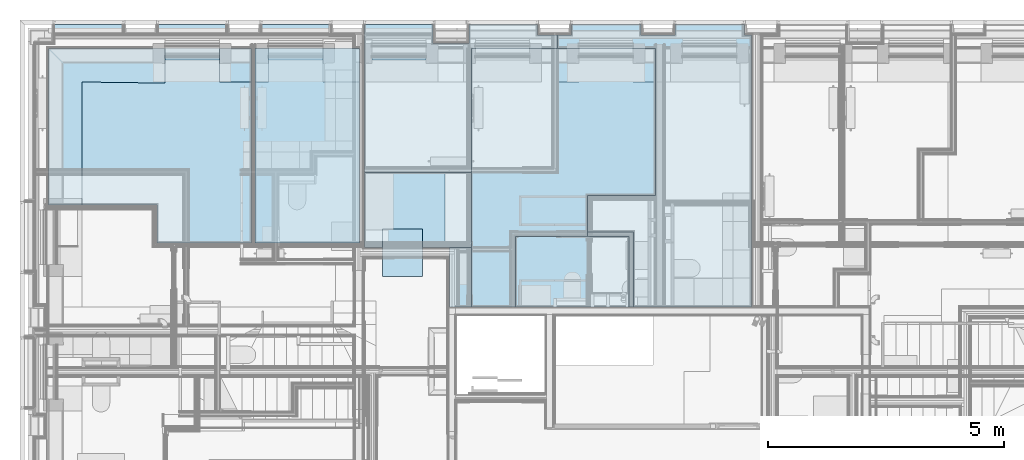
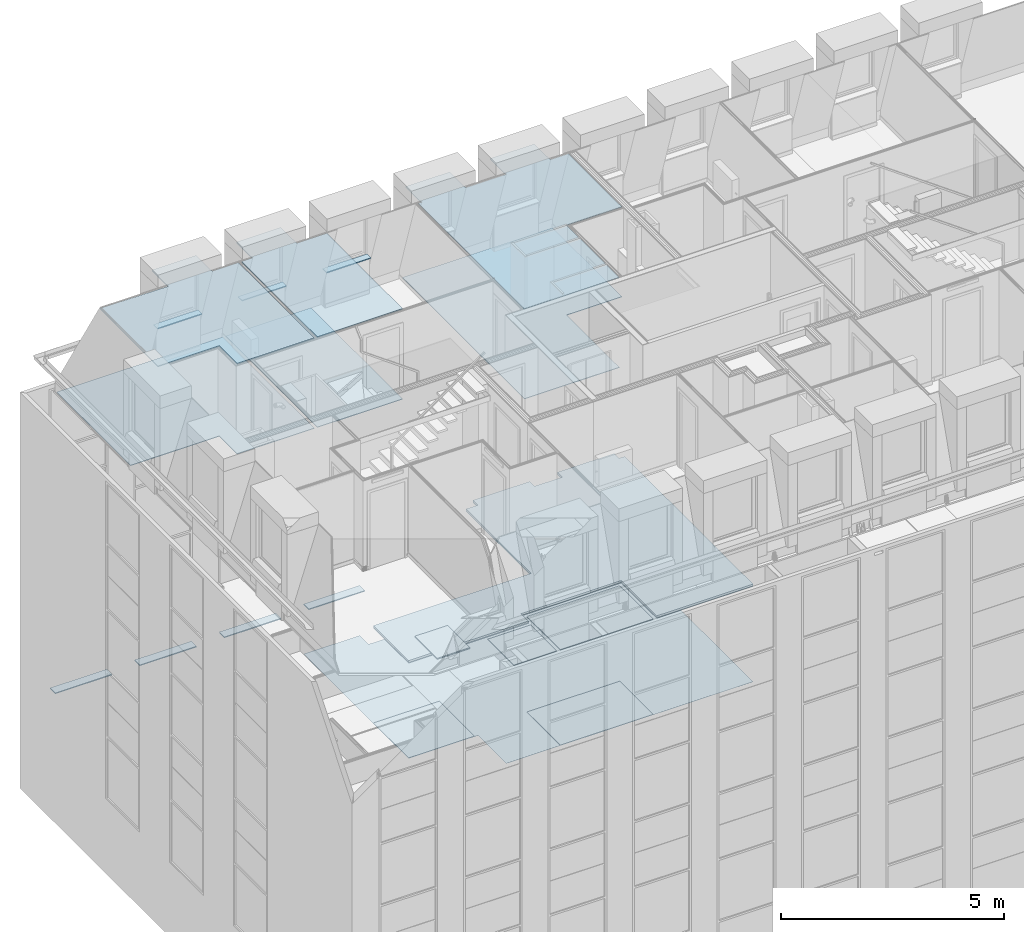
# One storey, part 74 of 169: 27 slabs.
"""IFC2X3 building model written with IfcOpenShell, lengths in metres."""

import ifcopenshell
import ifcopenshell.guid

model = None  # the IFC model being written
_history = None  # IfcOwnerHistory: only IFC2X3 demands one
_inside = {}  # id of a spatial element -> (the spatial element, [elements in it])
_under = {}  # id of a project, library or spatial element -> (it, [spatial elements below it])
_declared = {}  # id of a project -> (the project, [libraries it declares])
_typed = {}  # id of a type object -> (the type object, [elements of that type])
_made_of = {}  # id of a material, layer set ... -> (it, [elements and type objects made of it])


def new_model(schema):
    """Start an empty IFC model of exactly this schema.

    Asked for "IFC4X3", IfcOpenShell would pick the latest addendum, in which some entities
    have other attributes; the version numbers below select the first issue.
    IFC2X3 requires an IfcOwnerHistory on every rooted entity: one is made here for all.
    """
    global model, _history
    if schema == "IFC4X3":
        model = ifcopenshell.file(schema_version=(4, 3, 0, 0))
    else:
        model = ifcopenshell.file(schema=schema)
    _inside.clear()
    _under.clear()
    _declared.clear()
    _typed.clear()
    _made_of.clear()
    _history = None
    if model.schema == "IFC2X3":
        org = make("IfcOrganization", Name="unknown")
        user = make(
            "IfcPersonAndOrganization",
            ThePerson=make("IfcPerson", FamilyName="unknown"),
            TheOrganization=org,
        )
        app = make(
            "IfcApplication",
            ApplicationDeveloper=org,
            Version="unknown",
            ApplicationFullName="unknown",
            ApplicationIdentifier="unknown",
        )
        _history = make(
            "IfcOwnerHistory",
            OwningUser=user,
            OwningApplication=app,
            ChangeAction="ADDED",
            CreationDate=0,
        )
    return model


def make(cls, **values):
    """One entity of the class cls with the attributes given. An attribute that is None is left unset."""
    return model.create_entity(
        cls, **{name: value for name, value in values.items() if value is not None}
    )


def entity(cls, *values):
    """Any entity or typed value of the class cls, its attributes in the order of the schema. None: left unset."""
    e = model.create_entity(cls)
    for i, value in enumerate(values):
        if value is not None:
            e[i] = value
    return e


def rooted(cls, **values):
    """An entity with a GlobalId (a new one), such as an element, a storey or a relation."""
    return make(cls, GlobalId=ifcopenshell.guid.new(), OwnerHistory=_history, **values)


def si_unit(unit_type, name, prefix=None):
    """IfcSIUnit, for example si_unit("LENGTHUNIT", "METRE", prefix="MILLI")."""
    return make("IfcSIUnit", UnitType=unit_type, Prefix=prefix, Name=name)


def converted_unit(unit_type, name, factor, base, dimensions=None, offset=None):
    """IfcConversionBasedUnit, such as the inch: factor (a typed value) times the base unit."""
    return make(
        "IfcConversionBasedUnit"
        if offset is None
        else "IfcConversionBasedUnitWithOffset",
        ConversionOffset=offset,
        Dimensions=None
        if dimensions is None
        else entity("IfcDimensionalExponents", *dimensions),
        UnitType=unit_type,
        Name=name,
        ConversionFactor=make(
            "IfcMeasureWithUnit", ValueComponent=factor, UnitComponent=base
        ),
    )


def derived_unit(unit_type, elements):
    """IfcDerivedUnit: a product of units, each with its exponent."""
    return make(
        "IfcDerivedUnit",
        Elements=[
            make("IfcDerivedUnitElement", Unit=unit, Exponent=power)
            for unit, power in elements
        ],
        UnitType=unit_type,
    )


def money_unit(currency):
    """IfcMonetaryUnit."""
    return make("IfcMonetaryUnit", Currency=currency)


def assignment(units):
    """IfcUnitAssignment: the units of a project."""
    return None if units is None else make("IfcUnitAssignment", Units=units)


def point(xyz):
    """IfcCartesianPoint."""
    return None if xyz is None else make("IfcCartesianPoint", Coordinates=xyz)


def direction(xyz):
    """IfcDirection."""
    return None if xyz is None else make("IfcDirection", DirectionRatios=xyz)


def frame(location, z_axis=None, x_axis=None):
    """IfcAxis2Placement3D, a coordinate frame: its origin and axes. An axis left out is left unset."""
    return make(
        "IfcAxis2Placement3D",
        Location=point(location),
        Axis=direction(z_axis),
        RefDirection=direction(x_axis),
    )


def origin_with_axes():
    """The frame at (0, 0, 0) with the z axis (0, 0, 1) and the x axis (1, 0, 0) written out."""
    return frame((0.0, 0.0, 0.0), z_axis=(0.0, 0.0, 1.0), x_axis=(1.0, 0.0, 0.0))


def place(relative_to, where):
    """IfcLocalPlacement: puts the frame where relative to a parent placement (None: the world)."""
    return make(
        "IfcLocalPlacement", PlacementRelTo=relative_to, RelativePlacement=where
    )


def context(
    kind, dimensions, precision=None, world=None, true_north=None, identifier=None
):
    """IfcGeometricRepresentationContext, for example the 3D "Model" context."""
    return make(
        "IfcGeometricRepresentationContext",
        ContextIdentifier=identifier,
        ContextType=kind,
        CoordinateSpaceDimension=dimensions,
        Precision=precision,
        WorldCoordinateSystem=world,
        TrueNorth=true_north,
    )


def subcontext(parent, identifier, kind, view, scale=None):
    """IfcGeometricRepresentationSubContext, for example "Body" below "Model"."""
    return make(
        "IfcGeometricRepresentationSubContext",
        ContextIdentifier=identifier,
        ContextType=kind,
        ParentContext=parent,
        TargetScale=scale,
        TargetView=view,
    )


def project(units=None, contexts=None):
    """IfcProject with its units and contexts."""
    return rooted(
        "IfcProject",
        Name="project",
        RepresentationContexts=contexts,
        UnitsInContext=assignment(units),
    )


def spatial(cls, under=None, at=None, **own):
    """A site, building, storey or space (cls), placed at a placement, below another one or the project."""
    s = rooted(cls, ObjectPlacement=at, **own)
    if under is not None:
        _under.setdefault(under.id(), (under, []))[1].append(s)
    return s


def faces_of(points, faces, orient=None, outer=None):
    """IfcFace entities. A face is a list of loops; a loop is a list of indices into points, from 0.

    orient and outer hold one flag for each loop. By default every Orientation is true, the
    first loop of a face is its IfcFaceOuterBound and the others are IfcFaceBound.
    """
    made = []
    for i, loops in enumerate(faces):
        bounds = []
        for j, loop in enumerate(loops):
            is_outer = j == 0 if outer is None else outer[i][j]
            bounds.append(
                make(
                    "IfcFaceOuterBound" if is_outer else "IfcFaceBound",
                    Bound=make("IfcPolyLoop", Polygon=[points[k] for k in loop]),
                    Orientation=True if orient is None else orient[i][j],
                )
            )
        made.append(make("IfcFace", Bounds=bounds))
    return made


def faceted_brep(points, faces, orient=None, outer=None, voids=None):
    """IfcFacetedBrep: a solid bounded by flat faces; with voids (closed shells), ...WithVoids."""
    shared = [point(p) for p in points]
    hull = make("IfcClosedShell", CfsFaces=faces_of(shared, faces, orient, outer))
    if voids is None:
        return make("IfcFacetedBrep", Outer=hull)
    return make(
        "IfcFacetedBrepWithVoids",
        Outer=hull,
        Voids=[
            make(cls, CfsFaces=faces_of(shared, fs, o, b)) for cls, fs, o, b in voids
        ],
    )


def shape(context_of_items, identifier, shape_type, items):
    """IfcShapeRepresentation: the items that make up one representation, for example the "Body"."""
    return make(
        "IfcShapeRepresentation",
        ContextOfItems=context_of_items,
        RepresentationIdentifier=identifier,
        RepresentationType=shape_type,
        Items=items,
    )


def material(Name=None, Category=None):
    """IfcMaterial."""
    return make("IfcMaterial", Name=Name, Category=Category)


def made_of(thing, what):
    """Note that an element or type object is made of a material, layer set ...; save() writes the relation."""
    if what is not None:
        _made_of.setdefault(what.id(), (what, []))[1].append(thing)
    return thing


def type_object(cls, material=None, **own):
    """A type object (cls), such as IfcWallType, which elements share."""
    return made_of(rooted(cls, **own), material)


def element(
    cls,
    number,
    at=None,
    inside=None,
    cuts=None,
    type_object=None,
    material=None,
    context=None,
    identifier="Body",
    shape_type=None,
    held_by="IfcProductDefinitionShape",
    body=None,
    shapes=None,
    **own,
):
    """One element of the class cls, such as IfcWall. Its Tag is "e" and its number.

    at: its placement. inside: the storey or other place that contains it. cuts: it is an
    opening in that element (IfcRelVoidsElement). A single representation is given by context,
    identifier, shape_type and body (its items); several are given by shapes. held_by: the class
    of the entity that holds the representations. save() writes the other relations.
    """
    e = rooted(cls, Tag="e%d" % number, ObjectPlacement=at, **own)
    if body is not None:
        shapes = [shape(context, identifier, shape_type, body)]
    if shapes is not None:
        e.Representation = make(held_by, Representations=shapes)
    if inside is not None:
        _inside.setdefault(inside.id(), (inside, []))[1].append(e)
    if cuts is not None:
        rooted(
            "IfcRelVoidsElement", RelatingBuildingElement=cuts, RelatedOpeningElement=e
        )
    if type_object is not None:
        _typed.setdefault(type_object.id(), (type_object, []))[1].append(e)
    return made_of(e, material)


def aggregate(whole, parts):
    """IfcRelAggregates: a whole, such as a stair, and the parts it consists of."""
    return rooted("IfcRelAggregates", RelatingObject=whole, RelatedObjects=parts)


def save(model, path):
    """Write the relations noted so far, then the file.

    IfcRelAggregates (storeys below a building ...), IfcRelContainedInSpatialStructure (elements
    in a storey), IfcRelDefinesByType, IfcRelAssociatesMaterial and IfcRelDeclares: one each for
    every whole, place, type object, material and project.
    """
    for whole, parts in _under.values():
        aggregate(whole, parts)
    for where, things in _inside.values():
        rooted(
            "IfcRelContainedInSpatialStructure",
            RelatedElements=things,
            RelatingStructure=where,
        )
    for kind, things in _typed.values():
        rooted("IfcRelDefinesByType", RelatedObjects=things, RelatingType=kind)
    for what, things in _made_of.values():
        rooted("IfcRelAssociatesMaterial", RelatedObjects=things, RelatingMaterial=what)
    for by, libraries in _declared.values():
        rooted("IfcRelDeclares", RelatingContext=by, RelatedDefinitions=libraries)
    model.write(path)


model = new_model("IFC2X3")

# Units and contexts
model_context = context("Model", 3, precision=1e-05, world=origin_with_axes(), true_north=direction((0.0, 1.0)))
body_context = subcontext(model_context, "Body", "Model", "MODEL_VIEW", scale=1.0)
ifc_project = project(units=[si_unit("LENGTHUNIT", "METRE"), si_unit("AREAUNIT", "SQUARE_METRE"), si_unit("VOLUMEUNIT", "CUBIC_METRE"), si_unit("ABSORBEDDOSEUNIT", "GRAY"), si_unit("AMOUNTOFSUBSTANCEUNIT", "MOLE"), si_unit("DOSEEQUIVALENTUNIT", "SIEVERT"), si_unit("ELECTRICCAPACITANCEUNIT", "FARAD"), si_unit("ELECTRICCHARGEUNIT", "COULOMB"), si_unit("ELECTRICCONDUCTANCEUNIT", "SIEMENS"), si_unit("ELECTRICCURRENTUNIT", "AMPERE"), si_unit("ELECTRICRESISTANCEUNIT", "OHM"), si_unit("ELECTRICVOLTAGEUNIT", "VOLT"), si_unit("ENERGYUNIT", "JOULE"), si_unit("FORCEUNIT", "NEWTON"), si_unit("FREQUENCYUNIT", "HERTZ"), si_unit("ILLUMINANCEUNIT", "LUX"), si_unit("INDUCTANCEUNIT", "HENRY"), si_unit("LUMINOUSFLUXUNIT", "LUMEN"), si_unit("LUMINOUSINTENSITYUNIT", "CANDELA"), si_unit("MAGNETICFLUXDENSITYUNIT", "TESLA"), si_unit("MAGNETICFLUXUNIT", "WEBER"), si_unit("MASSUNIT", "GRAM"), converted_unit("PLANEANGLEUNIT", "degree", entity("IfcReal", 0.0174532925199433), si_unit("PLANEANGLEUNIT", "RADIAN"), dimensions=[0, 0, 0, 0, 0, 0, 0]), si_unit("POWERUNIT", "WATT"), si_unit("PRESSUREUNIT", "PASCAL"), si_unit("RADIOACTIVITYUNIT", "BECQUEREL"), si_unit("SOLIDANGLEUNIT", "STERADIAN"), si_unit("THERMODYNAMICTEMPERATUREUNIT", "KELVIN"), si_unit("TIMEUNIT", "SECOND"), derived_unit("ACCELERATIONUNIT", [(si_unit("LENGTHUNIT", "METRE"), 1), (si_unit("TIMEUNIT", "SECOND"), -2)]), derived_unit("ANGULARVELOCITYUNIT", [(converted_unit("PLANEANGLEUNIT", "degree", entity("IfcReal", 0.0174532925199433), si_unit("PLANEANGLEUNIT", "RADIAN"), dimensions=[0, 0, 0, 0, 0, 0, 0]), 1), (si_unit("TIMEUNIT", "SECOND"), -1)]), derived_unit("CURVATUREUNIT", [(converted_unit("PLANEANGLEUNIT", "degree", entity("IfcReal", 0.0174532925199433), si_unit("PLANEANGLEUNIT", "RADIAN"), dimensions=[0, 0, 0, 0, 0, 0, 0]), 1), (si_unit("LENGTHUNIT", "METRE"), -1)]), derived_unit("DYNAMICVISCOSITYUNIT", [(si_unit("PRESSUREUNIT", "PASCAL"), 1), (si_unit("TIMEUNIT", "SECOND"), 1)]), derived_unit("HEATFLUXDENSITYUNIT", [(si_unit("POWERUNIT", "WATT"), 1), (si_unit("LENGTHUNIT", "METRE"), -2)]), derived_unit("HEATINGVALUEUNIT", [(si_unit("ENERGYUNIT", "JOULE"), 1), (si_unit("MASSUNIT", "GRAM"), -1)]), derived_unit("INTEGERCOUNTRATEUNIT", [(si_unit("TIMEUNIT", "SECOND"), -1)]), derived_unit("IONCONCENTRATIONUNIT", [(si_unit("MASSUNIT", "GRAM"), 1), (si_unit("VOLUMEUNIT", "CUBIC_METRE"), -1)]), derived_unit("ISOTHERMALMOISTURECAPACITYUNIT", [(si_unit("VOLUMEUNIT", "CUBIC_METRE"), 1), (si_unit("MASSUNIT", "GRAM"), -1)]), derived_unit("KINEMATICVISCOSITYUNIT", [(si_unit("AREAUNIT", "SQUARE_METRE"), 1), (si_unit("TIMEUNIT", "SECOND"), -1)]), derived_unit("LINEARFORCEUNIT", [(si_unit("FORCEUNIT", "NEWTON"), 1), (si_unit("LENGTHUNIT", "METRE"), -1)]), derived_unit("LINEARMOMENTUNIT", [(si_unit("FORCEUNIT", "NEWTON"), 1), (si_unit("LENGTHUNIT", "METRE"), -1)]), derived_unit("LINEARSTIFFNESSUNIT", [(si_unit("FORCEUNIT", "NEWTON"), 1), (si_unit("LENGTHUNIT", "METRE"), -1)]), derived_unit("LINEARVELOCITYUNIT", [(si_unit("LENGTHUNIT", "METRE"), 1), (si_unit("TIMEUNIT", "SECOND"), -1)]), derived_unit("LUMINOUSINTENSITYDISTRIBUTIONUNIT", [(si_unit("LUMINOUSINTENSITYUNIT", "CANDELA"), 1), (si_unit("LUMINOUSFLUXUNIT", "LUMEN"), -1)]), derived_unit("MASSDENSITYUNIT", [(si_unit("MASSUNIT", "GRAM"), 1), (si_unit("VOLUMEUNIT", "CUBIC_METRE"), -1)]), derived_unit("MASSFLOWRATEUNIT", [(si_unit("MASSUNIT", "GRAM"), 1), (si_unit("TIMEUNIT", "SECOND"), -1)]), derived_unit("MASSPERLENGTHUNIT", [(si_unit("MASSUNIT", "GRAM"), 1), (si_unit("LENGTHUNIT", "METRE"), -1)]), derived_unit("MODULUSOFELASTICITYUNIT", [(si_unit("FORCEUNIT", "NEWTON"), 1), (si_unit("AREAUNIT", "SQUARE_METRE"), -1)]), derived_unit("MODULUSOFLINEARSUBGRADEREACTIONUNIT", [(si_unit("FORCEUNIT", "NEWTON"), 1), (si_unit("LENGTHUNIT", "METRE"), -2)]), derived_unit("MODULUSOFROTATIONALSUBGRADEREACTIONUNIT", [(si_unit("FORCEUNIT", "NEWTON"), 1), (si_unit("LENGTHUNIT", "METRE"), 1)]), derived_unit("MODULUSOFSUBGRADEREACTIONUNIT", [(si_unit("FORCEUNIT", "NEWTON"), 1), (si_unit("VOLUMEUNIT", "CUBIC_METRE"), -1)]), derived_unit("MOISTUREDIFFUSIVITYUNIT", [(si_unit("VOLUMEUNIT", "CUBIC_METRE"), 1), (si_unit("TIMEUNIT", "SECOND"), -1)]), derived_unit("MOLECULARWEIGHTUNIT", [(si_unit("MASSUNIT", "GRAM"), 1), (si_unit("AMOUNTOFSUBSTANCEUNIT", "MOLE"), -1)]), derived_unit("PLANARFORCEUNIT", [(si_unit("FORCEUNIT", "NEWTON"), 1), (si_unit("LENGTHUNIT", "METRE"), -2)]), derived_unit("ROTATIONALFREQUENCYUNIT", [(si_unit("TIMEUNIT", "SECOND"), -1)]), derived_unit("ROTATIONALMASSUNIT", [(si_unit("MASSUNIT", "GRAM"), 1), (si_unit("LENGTHUNIT", "METRE"), 2)]), derived_unit("ROTATIONALSTIFFNESSUNIT", [(si_unit("FORCEUNIT", "NEWTON"), 1), (si_unit("LENGTHUNIT", "METRE"), 1), (converted_unit("PLANEANGLEUNIT", "degree", entity("IfcReal", 0.0174532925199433), si_unit("PLANEANGLEUNIT", "RADIAN"), dimensions=[0, 0, 0, 0, 0, 0, 0]), -1)]), derived_unit("SECTIONAREAINTEGRALUNIT", [(si_unit("LENGTHUNIT", "METRE"), 5)]), derived_unit("SECTIONMODULUSUNIT", [(si_unit("LENGTHUNIT", "METRE"), 3)]), derived_unit("SHEARMODULUSUNIT", [(si_unit("FORCEUNIT", "NEWTON"), 1), (si_unit("AREAUNIT", "SQUARE_METRE"), -1)]), derived_unit("SOUNDPOWERUNIT", [(si_unit("ENERGYUNIT", "JOULE"), 1), (si_unit("TIMEUNIT", "SECOND"), -1)]), derived_unit("SPECIFICHEATCAPACITYUNIT", [(si_unit("FORCEUNIT", "NEWTON"), 1), (si_unit("MASSUNIT", "GRAM"), -1), (si_unit("THERMODYNAMICTEMPERATUREUNIT", "KELVIN"), -1)]), derived_unit("TEMPERATUREGRADIENTUNIT", [(si_unit("THERMODYNAMICTEMPERATUREUNIT", "KELVIN"), 1), (si_unit("LENGTHUNIT", "METRE"), -1)]), derived_unit("THERMALADMITTANCEUNIT", [(si_unit("POWERUNIT", "WATT"), 1), (si_unit("AREAUNIT", "SQUARE_METRE"), -1), (si_unit("THERMODYNAMICTEMPERATUREUNIT", "KELVIN"), -1)]), derived_unit("THERMALCONDUCTANCEUNIT", [(si_unit("POWERUNIT", "WATT"), 1), (si_unit("LENGTHUNIT", "METRE"), -1), (si_unit("THERMODYNAMICTEMPERATUREUNIT", "KELVIN"), -1)]), derived_unit("THERMALEXPANSIONCOEFFICIENTUNIT", [(si_unit("THERMODYNAMICTEMPERATUREUNIT", "KELVIN"), -1)]), derived_unit("THERMALRESISTANCEUNIT", [(si_unit("AREAUNIT", "SQUARE_METRE"), 1), (si_unit("POWERUNIT", "WATT"), -1)]), derived_unit("THERMALTRANSMITTANCEUNIT", [(si_unit("POWERUNIT", "WATT"), 1), (si_unit("AREAUNIT", "SQUARE_METRE"), -1), (si_unit("THERMODYNAMICTEMPERATUREUNIT", "KELVIN"), -1)]), derived_unit("TORQUEUNIT", [(si_unit("FORCEUNIT", "NEWTON"), 1), (si_unit("LENGTHUNIT", "METRE"), 1)]), derived_unit("VAPORPERMEABILITYUNIT", [(si_unit("MASSUNIT", "GRAM"), 1), (si_unit("TIMEUNIT", "SECOND"), -1)]), derived_unit("VOLUMETRICFLOWRATEUNIT", [(si_unit("VOLUMEUNIT", "CUBIC_METRE"), 1), (si_unit("TIMEUNIT", "SECOND"), -1)]), derived_unit("WARPINGCONSTANTUNIT", [(si_unit("LENGTHUNIT", "METRE"), 6)]), derived_unit("WARPINGMOMENTUNIT", [(si_unit("FORCEUNIT", "NEWTON"), 1), (si_unit("LENGTHUNIT", "METRE"), 2)]), money_unit("GBP")], contexts=[model_context])

# Site, building, storey
site_placement = place(None, origin_with_axes())
site = spatial("IfcSite", under=ifc_project, at=site_placement, Name="Site", CompositionType="ELEMENT")
building_placement = place(site_placement, origin_with_axes())
building = spatial("IfcBuilding", under=site, at=building_placement, Name="Building01", CompositionType="ELEMENT")
storey_placement = place(building_placement, frame((0.0, 0.0, 5.15), z_axis=(0.0, 0.0, 1.0), x_axis=(1.0, 0.0, 0.0)))
storey = spatial("IfcBuildingStorey", under=building, at=storey_placement, Name="1F", CompositionType="ELEMENT", Elevation=5.15)

# Slabs
ifc_material_1 = material(Name="A_BSUK_ExpandedPolystyreneBoards")
slab_type_1 = type_object("IfcSlabType", Name="A-FloorsSlabs A_BSUK_Slabs", PredefinedType="FLOOR")
placement = place(storey_placement, frame((0.0, 0.0, -5.15), z_axis=(0.0, 0.0, 1.0), x_axis=(1.0, 0.0, 0.0)))
element("IfcSlab", 1, at=placement, inside=storey, type_object=slab_type_1, material=ifc_material_1, Name="A-FloorsSlabs A_BSUK_Slabs", ObjectType="CompoundSlabLeaf", context=body_context, shape_type="Brep", body=[
    faceted_brep([(7.289669, 10.087704, 5.15), (7.289669, 10.087704, 5.153), (7.289669, 14.582, 5.153), (7.289669, 14.582, 5.15), (9.09, 10.087704, 5.15), (9.09, 10.087704, 5.153), (9.09, 9.200704, 5.15), (9.09, 9.200704, 5.153), (9.09, 8.82, 5.15), (9.09, 8.82, 5.153), (12.893585, 8.82, 5.15), (12.893585, 8.82, 5.153), (15.483132, 8.82, 5.15), (15.483132, 8.82, 5.153), (15.483132, 14.582, 5.15), (15.483132, 14.582, 5.153), (15.335, 14.582, 5.15), (15.335, 14.582, 5.153), (15.335, 14.8, 5.15), (15.335, 14.8, 5.153), (13.865, 14.8, 5.15), (13.865, 14.8, 5.153), (13.865, 14.582, 5.15), (13.865, 14.582, 5.153), (13.145, 14.582, 5.15), (13.145, 14.582, 5.153), (13.145, 14.8, 5.15), (13.145, 14.8, 5.153), (11.675, 14.8, 5.15), (11.675, 14.8, 5.153), (11.675, 14.582, 5.15), (11.675, 14.582, 5.153), (10.955, 14.582, 5.15), (10.955, 14.582, 5.153), (10.955, 14.8, 5.15), (10.955, 14.8, 5.153), (9.508, 14.8, 5.15), (9.508, 14.8, 5.153), (9.508, 14.402, 5.15), (9.508, 14.402, 5.153), (8.742, 14.402, 5.15), (8.742, 14.402, 5.153), (8.742, 14.8, 5.15), (8.742, 14.8, 5.153), (7.295, 14.8, 5.15), (7.295, 14.8, 5.153), (7.295, 14.582, 5.15), (7.295, 14.582, 5.153)], [[[0, 1, 2, 3]], [[4, 5, 1, 0]], [[6, 7, 5, 4]], [[8, 9, 7, 6]], [[10, 11, 9, 8]], [[12, 13, 11, 10]], [[14, 15, 13, 12]], [[16, 17, 15, 14]], [[18, 19, 17, 16]], [[20, 21, 19, 18]], [[22, 23, 21, 20]], [[24, 25, 23, 22]], [[26, 27, 25, 24]], [[28, 29, 27, 26]], [[30, 31, 29, 28]], [[32, 33, 31, 30]], [[34, 35, 33, 32]], [[36, 37, 35, 34]], [[38, 39, 37, 36]], [[40, 41, 39, 38]], [[42, 43, 41, 40]], [[44, 45, 43, 42]], [[46, 47, 45, 44]], [[3, 2, 47, 46]], [[1, 5, 7, 9, 11, 13, 15, 17, 19, 21, 23, 25, 27, 29, 31, 33, 35, 37, 39, 41, 43, 45, 47, 2]], [[3, 46, 44, 42, 40, 38, 36, 34, 32, 30, 28, 26, 24, 22, 20, 18, 16, 14, 12, 10, 8, 6, 4, 0]]]),
])
ifc_material_2 = material(Name="A_BSUK_Parquet_Floor")
element("IfcSlab", 2, at=placement, inside=storey, type_object=slab_type_1, material=ifc_material_2, Name="A-FloorsSlabs A_BSUK_Slabs", ObjectType="CompoundSlabLeaf", context=body_context, shape_type="Brep", body=[
    faceted_brep([(7.289669, 10.087704, 5.153), (7.289669, 10.087704, 5.165), (7.289669, 11.668124, 5.165), (7.289669, 11.668124, 5.153), (8.995, 10.087704, 5.153), (8.995, 10.087704, 5.165), (8.995, 11.668124, 5.153), (8.995, 11.668124, 5.165)], [[[0, 1, 2, 3]], [[4, 5, 1, 0]], [[6, 7, 5, 4]], [[3, 2, 7, 6]], [[1, 5, 7, 2]], [[3, 6, 4, 0]]]),
])
ifc_material_3 = material(Name="A_BSUK_Ceramic_FloorTiles")
element("IfcSlab", 3, at=placement, inside=storey, type_object=slab_type_1, material=ifc_material_3, Name="A-FloorsSlabs A_BSUK_Slabs", ObjectType="CompoundSlabLeaf", context=body_context, shape_type="Brep", body=[
    faceted_brep([(10.488871, 10.32, 5.153), (10.488871, 10.32, 5.165), (12.893585, 10.32, 5.165), (12.893585, 10.32, 5.153), (10.488871, 8.82, 5.153), (10.488871, 8.82, 5.165), (12.893585, 8.82, 5.153), (12.893585, 8.82, 5.165)], [[[0, 1, 2, 3]], [[4, 5, 1, 0]], [[6, 7, 5, 4]], [[3, 2, 7, 6]], [[1, 5, 7, 2]], [[3, 6, 4, 0]]]),
])
ifc_material_4 = material(Name="A_BSUK_CeilingSoffitFinishes_Suspended")
element("IfcSlab", 4, at=placement, inside=storey, type_object=slab_type_1, material=ifc_material_4, Name="A-FloorsSlabs A_BSUK_Slabs", ObjectType="CompoundSlabLeaf", context=body_context, shape_type="Brep", body=[
    faceted_brep([(12.988585, 10.415, 7.765), (12.988585, 10.415, 7.78), (10.393871, 10.415, 7.78), (10.393871, 10.415, 7.765), (12.988585, 8.82, 7.765), (12.988585, 8.82, 7.78), (15.483132, 8.82, 7.765), (15.483132, 8.82, 7.78), (15.483132, 14.582, 7.765), (15.483132, 14.582, 7.78), (15.335, 14.582, 7.765), (15.335, 14.582, 7.78), (15.335, 14.8, 7.765), (15.335, 14.8, 7.78), (13.865, 14.8, 7.765), (13.865, 14.8, 7.78), (13.865, 14.582, 7.765), (13.865, 14.582, 7.78), (13.145, 14.582, 7.765), (13.145, 14.582, 7.78), (13.145, 14.8, 7.765), (13.145, 14.8, 7.78), (11.675, 14.8, 7.765), (11.675, 14.8, 7.78), (11.675, 14.582, 7.765), (11.675, 14.582, 7.78), (11.375, 14.582, 7.765), (11.375, 14.582, 7.78), (11.375, 11.668124, 7.765), (11.375, 11.668124, 7.78), (10.653, 11.668124, 7.765), (10.653, 11.668124, 7.78), (9.642, 11.668124, 7.765), (9.642, 11.668124, 7.78), (7.289669, 11.668124, 7.765), (7.289669, 11.668124, 7.78), (7.289669, 10.087704, 7.765), (7.289669, 10.087704, 7.78), (10.393871, 10.087704, 7.765), (10.393871, 10.087704, 7.78)], [[[0, 1, 2, 3]], [[4, 5, 1, 0]], [[6, 7, 5, 4]], [[8, 9, 7, 6]], [[10, 11, 9, 8]], [[12, 13, 11, 10]], [[14, 15, 13, 12]], [[16, 17, 15, 14]], [[18, 19, 17, 16]], [[20, 21, 19, 18]], [[22, 23, 21, 20]], [[24, 25, 23, 22]], [[26, 27, 25, 24]], [[28, 29, 27, 26]], [[30, 31, 29, 28]], [[32, 33, 31, 30]], [[34, 35, 33, 32]], [[36, 37, 35, 34]], [[38, 39, 37, 36]], [[3, 2, 39, 38]], [[1, 5, 7, 9, 11, 13, 15, 17, 19, 21, 23, 25, 27, 29, 31, 33, 35, 37, 39, 2]], [[3, 38, 36, 34, 32, 30, 28, 26, 24, 22, 20, 18, 16, 14, 12, 10, 8, 6, 4, 0]]]),
])
element("IfcSlab", 5, at=placement, inside=storey, type_object=slab_type_1, material=ifc_material_4, Name="A-FloorsSlabs A_BSUK_Slabs", ObjectType="CompoundSlabLeaf", context=body_context, shape_type="Brep", body=[
    faceted_brep([(10.488871, 10.32, 7.765), (10.488871, 10.32, 7.78), (12.893585, 10.32, 7.78), (12.893585, 10.32, 7.765), (10.488871, 8.82, 7.765), (10.488871, 8.82, 7.78), (12.893585, 8.82, 7.765), (12.893585, 8.82, 7.78)], [[[0, 1, 2, 3]], [[4, 5, 1, 0]], [[6, 7, 5, 4]], [[3, 2, 7, 6]], [[1, 5, 7, 2]], [[3, 6, 4, 0]]]),
])
element("IfcSlab", 6, at=placement, inside=storey, type_object=slab_type_1, material=ifc_material_4, Name="A-FloorsSlabs A_BSUK_Slabs", ObjectType="CompoundSlabLeaf", context=body_context, shape_type="Brep", body=[
    faceted_brep([(9.285, 8.82, 7.765), (9.285, 8.82, 7.78), (9.285, 9.992662, 7.78), (9.285, 9.992662, 7.765), (10.393585, 8.82, 7.765), (10.393585, 8.82, 7.78), (10.393585, 9.992662, 7.765), (10.393585, 9.992662, 7.78)], [[[0, 1, 2, 3]], [[4, 5, 1, 0]], [[6, 7, 5, 4]], [[3, 2, 7, 6]], [[1, 5, 7, 2]], [[3, 6, 4, 0]]]),
])
ifc_material_5 = material(Name="A_BSUK_Timber_Miscellaneous")
element("IfcSlab", 7, at=placement, inside=storey, type_object=slab_type_1, material=ifc_material_5, Name="A-FloorsSlabs A_BSUK_Slabs", ObjectType="CompoundSlabLeaf", context=body_context, shape_type="Brep", body=[
    faceted_brep([(0.725, 14.567, 6.5), (0.725, 14.567, 6.525), (0.725, 14.800002, 6.525), (0.725, 14.800002, 6.5), (2.195, 14.567, 6.5), (2.195, 14.567, 6.525), (2.195, 14.8, 6.5), (2.195, 14.8, 6.525)], [[[0, 1, 2, 3]], [[4, 5, 1, 0]], [[6, 7, 5, 4]], [[3, 2, 7, 6]], [[1, 5, 7, 2]], [[3, 6, 4, 0]]]),
])
element("IfcSlab", 8, at=placement, inside=storey, type_object=slab_type_1, material=ifc_material_5, Name="A-FloorsSlabs A_BSUK_Slabs", ObjectType="CompoundSlabLeaf", context=body_context, shape_type="Brep", body=[
    faceted_brep([(2.915, 14.567, 6.5), (2.915, 14.567, 6.525), (2.915, 14.800002, 6.525), (2.915, 14.800002, 6.5), (4.385, 14.567, 6.5), (4.385, 14.567, 6.525), (4.385, 14.8, 6.5), (4.385, 14.8, 6.525)], [[[0, 1, 2, 3]], [[4, 5, 1, 0]], [[6, 7, 5, 4]], [[3, 2, 7, 6]], [[1, 5, 7, 2]], [[3, 6, 4, 0]]]),
])
element("IfcSlab", 9, at=placement, inside=storey, type_object=slab_type_1, material=ifc_material_5, Name="A-FloorsSlabs A_BSUK_Slabs", ObjectType="CompoundSlabLeaf", context=body_context, shape_type="Brep", body=[
    faceted_brep([(5.105, 14.567, 6.5), (5.105, 14.567, 6.525), (5.105, 14.800002, 6.525), (5.105, 14.800002, 6.5), (6.575, 14.567, 6.5), (6.575, 14.567, 6.525), (6.575, 14.8, 6.5), (6.575, 14.8, 6.525)], [[[0, 1, 2, 3]], [[4, 5, 1, 0]], [[6, 7, 5, 4]], [[3, 2, 7, 6]], [[1, 5, 7, 2]], [[3, 6, 4, 0]]]),
])
element("IfcSlab", 10, at=placement, inside=storey, type_object=slab_type_1, material=ifc_material_5, Name="A-FloorsSlabs A_BSUK_Slabs", ObjectType="CompoundSlabLeaf", context=body_context, shape_type="Brep", body=[
    faceted_brep([(7.289669, 14.567, 6.5), (7.289669, 14.567, 6.525), (7.289669, 14.800002, 6.525), (7.289669, 14.800002, 6.5), (8.742124, 14.567, 6.5), (8.742124, 14.567, 6.525), (8.742124, 14.8, 6.5), (8.742124, 14.8, 6.525)], [[[0, 1, 2, 3]], [[4, 5, 1, 0]], [[6, 7, 5, 4]], [[3, 2, 7, 6]], [[1, 5, 7, 2]], [[3, 6, 4, 0]]]),
])
element("IfcSlab", 11, at=placement, inside=storey, type_object=slab_type_1, material=ifc_material_4, Name="A-FloorsSlabs A_BSUK_Slabs", ObjectType="CompoundSlabLeaf", context=body_context, shape_type="Brep", body=[
    faceted_brep([(7.677169, 9.475204, 8.115), (7.677169, 9.475204, 8.13), (7.677169, 10.475204, 8.13), (7.677169, 10.475204, 8.115), (8.525, 9.475204, 8.115), (8.525, 9.475204, 8.13), (8.525, 10.475204, 8.115), (8.525, 10.475204, 8.13)], [[[0, 1, 2, 3]], [[4, 5, 1, 0]], [[6, 7, 5, 4]], [[3, 2, 7, 6]], [[1, 5, 7, 2]], [[3, 6, 4, 0]]]),
])
element("IfcSlab", 12, at=placement, inside=storey, type_object=slab_type_1, material=ifc_material_4, Name="A-FloorsSlabs A_BSUK_Slabs", ObjectType="CompoundSlabLeaf", context=body_context, shape_type="Brep", body=[
    faceted_brep([(7.677169, 9.475204, 8.1), (7.677169, 9.475204, 8.115), (7.677169, 10.475204, 8.115), (7.677169, 10.475204, 8.1), (8.525, 9.475204, 8.1), (8.525, 9.475204, 8.115), (8.525, 10.475204, 8.1), (8.525, 10.475204, 8.115)], [[[0, 1, 2, 3]], [[4, 5, 1, 0]], [[6, 7, 5, 4]], [[3, 2, 7, 6]], [[1, 5, 7, 2]], [[3, 6, 4, 0]]]),
])
element("IfcSlab", 13, at=placement, inside=storey, type_object=slab_type_1, material=ifc_material_4, Name="A-FloorsSlabs A_BSUK_Slabs", ObjectType="CompoundSlabLeaf", context=body_context, shape_type="Brep", body=[
    faceted_brep([(1.312402, 10.979915, 17.423), (1.312402, 10.979915, 17.438), (1.312402, 13.587598, 17.438), (1.312402, 13.587598, 17.423), (2.9, 10.979915, 17.423), (2.9, 10.979915, 17.438), (2.9, 10.179939, 17.423), (2.9, 10.179939, 17.438), (4.900024, 10.179939, 17.423), (4.900024, 10.179939, 17.438), (4.900024, 13.587598, 17.423), (4.900024, 13.587598, 17.438), (4.219976, 13.587598, 17.423), (4.219976, 13.587598, 17.438), (4.219976, 14.300061, 17.423), (4.219976, 14.300061, 17.438), (3.070024, 14.300061, 17.423), (3.070024, 14.300061, 17.438), (3.070024, 13.563821, 17.423), (3.070024, 13.563821, 17.438)], [[[0, 1, 2, 3]], [[4, 5, 1, 0]], [[6, 7, 5, 4]], [[8, 9, 7, 6]], [[10, 11, 9, 8]], [[12, 13, 11, 10]], [[14, 15, 13, 12]], [[16, 17, 15, 14]], [[18, 19, 17, 16]], [[3, 2, 19, 18]], [[1, 5, 7, 9, 11, 13, 15, 17, 19, 2]], [[3, 18, 16, 14, 12, 10, 8, 6, 4, 0]]]),
])
element("IfcSlab", 14, at=placement, inside=storey, type_object=slab_type_1, material=ifc_material_4, Name="A-FloorsSlabs A_BSUK_Slabs", ObjectType="CompoundSlabLeaf", context=body_context, shape_type="Brep", body=[
    faceted_brep([(4.980024, 10.179939, 17.423), (4.980024, 10.179939, 17.438), (4.980024, 13.587598, 17.438), (4.980024, 13.587598, 17.423), (7.190024, 10.179939, 17.423), (7.190024, 10.179939, 17.438), (7.190024, 13.587598, 17.423), (7.190024, 13.587598, 17.438), (6.410024, 13.587598, 17.423), (6.410024, 13.587598, 17.438), (6.410024, 14.300061, 17.423), (6.410024, 14.300061, 17.438), (5.260024, 14.300061, 17.423), (5.260024, 14.300061, 17.438), (5.260024, 13.587598, 17.423), (5.260024, 13.587598, 17.438)], [[[0, 1, 2, 3]], [[4, 5, 1, 0]], [[6, 7, 5, 4]], [[8, 9, 7, 6]], [[10, 11, 9, 8]], [[12, 13, 11, 10]], [[14, 15, 13, 12]], [[3, 2, 15, 14]], [[1, 5, 7, 9, 11, 13, 15, 2]], [[3, 14, 12, 10, 8, 6, 4, 0]]]),
])
element("IfcSlab", 15, at=placement, inside=storey, type_object=slab_type_1, material=ifc_material_4, Name="A-FloorsSlabs A_BSUK_Slabs", ObjectType="CompoundSlabLeaf", context=body_context, shape_type="Brep", body=[
    faceted_brep([(12.017381, 8.82, 17.423), (12.017381, 8.82, 17.438), (9.560024, 8.82, 17.438), (9.560024, 8.82, 17.423), (12.017381, 11.183849, 17.423), (12.017381, 11.183849, 17.438), (13.45, 11.183849, 17.423), (13.45, 11.183849, 17.438), (13.45, 13.587598, 17.423), (13.45, 13.587598, 17.438), (12.979976, 13.587598, 17.423), (12.979976, 13.587598, 17.438), (12.979976, 14.300061, 17.423), (12.979976, 14.300061, 17.438), (11.830024, 14.300061, 17.423), (11.830024, 14.300061, 17.438), (11.830024, 13.587598, 17.423), (11.830024, 13.587598, 17.438), (10.789976, 13.587598, 17.423), (10.789976, 13.587598, 17.438), (10.789976, 14.300061, 17.423), (10.789976, 14.300061, 17.438), (9.640024, 14.300061, 17.423), (9.640024, 14.300061, 17.438), (9.640024, 13.587598, 17.423), (9.640024, 13.587598, 17.438), (9.560024, 13.587598, 17.423), (9.560024, 13.587598, 17.438)], [[[0, 1, 2, 3]], [[4, 5, 1, 0]], [[6, 7, 5, 4]], [[8, 9, 7, 6]], [[10, 11, 9, 8]], [[12, 13, 11, 10]], [[14, 15, 13, 12]], [[16, 17, 15, 14]], [[18, 19, 17, 16]], [[20, 21, 19, 18]], [[22, 23, 21, 20]], [[24, 25, 23, 22]], [[26, 27, 25, 24]], [[3, 2, 27, 26]], [[1, 5, 7, 9, 11, 13, 15, 17, 19, 21, 23, 25, 27, 2]], [[3, 26, 24, 22, 20, 18, 16, 14, 12, 10, 8, 6, 4, 0]]]),
])
element("IfcSlab", 16, at=placement, inside=storey, type_object=slab_type_1, material=ifc_material_1, Name="A-FloorsSlabs A_BSUK_Slabs", ObjectType="CompoundSlabLeaf", context=body_context, shape_type="Brep", body=[
    faceted_brep([(0.6038, 10.979915, 14.965), (0.6038, 10.979915, 14.968), (0.6038, 14.2962, 14.968), (0.6038, 14.2962, 14.965), (2.9, 10.979915, 14.965), (2.9, 10.979915, 14.968), (2.9, 10.179939, 14.965), (2.9, 10.179939, 14.968), (4.900024, 10.179939, 14.965), (4.900024, 10.179939, 14.968), (4.900024, 14.2962, 14.965), (4.900024, 14.2962, 14.968), (4.219976, 14.2962, 14.965), (4.219976, 14.2962, 14.968), (3.070024, 14.2962, 14.965), (3.070024, 14.2962, 14.968)], [[[0, 1, 2, 3]], [[4, 5, 1, 0]], [[6, 7, 5, 4]], [[8, 9, 7, 6]], [[10, 11, 9, 8]], [[12, 13, 11, 10]], [[14, 15, 13, 12]], [[3, 2, 15, 14]], [[1, 5, 7, 9, 11, 13, 15, 2]], [[3, 14, 12, 10, 8, 6, 4, 0]]]),
])
element("IfcSlab", 17, at=placement, inside=storey, type_object=slab_type_1, material=ifc_material_1, Name="A-FloorsSlabs A_BSUK_Slabs", ObjectType="CompoundSlabLeaf", context=body_context, shape_type="Brep", body=[
    faceted_brep([(4.980024, 10.179939, 14.965), (4.980024, 10.179939, 14.968), (4.980024, 14.2962, 14.968), (4.980024, 14.2962, 14.965), (7.190024, 10.179939, 14.965), (7.190024, 10.179939, 14.968), (7.190024, 14.2962, 14.965), (7.190024, 14.2962, 14.968), (6.410024, 14.2962, 14.965), (6.410024, 14.2962, 14.968), (5.260024, 14.2962, 14.965), (5.260024, 14.2962, 14.968)], [[[0, 1, 2, 3]], [[4, 5, 1, 0]], [[6, 7, 5, 4]], [[8, 9, 7, 6]], [[10, 11, 9, 8]], [[3, 2, 11, 10]], [[1, 5, 7, 9, 11, 2]], [[3, 10, 8, 6, 4, 0]]]),
])
element("IfcSlab", 18, at=placement, inside=storey, type_object=slab_type_1, material=ifc_material_1, Name="A-FloorsSlabs A_BSUK_Slabs", ObjectType="CompoundSlabLeaf", context=body_context, shape_type="Brep", body=[
    faceted_brep([(12.017381, 8.82, 14.965), (12.017381, 8.82, 14.968), (9.560024, 8.82, 14.968), (9.560024, 8.82, 14.965), (12.017381, 11.183849, 14.965), (12.017381, 11.183849, 14.968), (13.45, 11.183849, 14.965), (13.45, 11.183849, 14.968), (13.45, 14.2962, 14.965), (13.45, 14.2962, 14.968), (12.979976, 14.2962, 14.965), (12.979976, 14.2962, 14.968), (11.830024, 14.2962, 14.965), (11.830024, 14.2962, 14.968), (10.789976, 14.2962, 14.965), (10.789976, 14.2962, 14.968), (9.640024, 14.2962, 14.965), (9.640024, 14.2962, 14.968), (9.560024, 14.2962, 14.965), (9.560024, 14.2962, 14.968)], [[[0, 1, 2, 3]], [[4, 5, 1, 0]], [[6, 7, 5, 4]], [[8, 9, 7, 6]], [[10, 11, 9, 8]], [[12, 13, 11, 10]], [[14, 15, 13, 12]], [[16, 17, 15, 14]], [[18, 19, 17, 16]], [[3, 2, 19, 18]], [[1, 5, 7, 9, 11, 13, 15, 17, 19, 2]], [[3, 18, 16, 14, 12, 10, 8, 6, 4, 0]]]),
])
element("IfcSlab", 19, at=placement, inside=storey, type_object=slab_type_1, material=ifc_material_5, Name="A-FloorsSlabs A_BSUK_Slabs", ObjectType="CompoundSlabLeaf", context=body_context, shape_type="Brep", body=[
    faceted_brep([(8.600024, 14.224661, 15.98), (8.600024, 14.224661, 16.005), (8.600024, 14.050061, 16.005), (8.600024, 14.050061, 15.98), (7.450024, 14.224661, 15.98), (7.450024, 14.224661, 16.005), (7.450024, 14.050062, 15.98), (7.450024, 14.050062, 16.005)], [[[0, 1, 2, 3]], [[4, 5, 1, 0]], [[6, 7, 5, 4]], [[3, 2, 7, 6]], [[1, 5, 7, 2]], [[3, 6, 4, 0]]]),
])
element("IfcSlab", 20, at=placement, inside=storey, type_object=slab_type_1, material=ifc_material_5, Name="A-FloorsSlabs A_BSUK_Slabs", ObjectType="CompoundSlabLeaf", context=body_context, shape_type="Brep", body=[
    faceted_brep([(6.410024, 14.224661, 15.98), (6.410024, 14.224661, 16.005), (6.410024, 14.050061, 16.005), (6.410024, 14.050061, 15.98), (5.260024, 14.224661, 15.98), (5.260024, 14.224661, 16.005), (5.260024, 14.050062, 15.98), (5.260024, 14.050062, 16.005)], [[[0, 1, 2, 3]], [[4, 5, 1, 0]], [[6, 7, 5, 4]], [[3, 2, 7, 6]], [[1, 5, 7, 2]], [[3, 6, 4, 0]]]),
])
element("IfcSlab", 21, at=placement, inside=storey, type_object=slab_type_1, material=ifc_material_5, Name="A-FloorsSlabs A_BSUK_Slabs", ObjectType="CompoundSlabLeaf", context=body_context, shape_type="Brep", body=[
    faceted_brep([(4.220024, 14.224661, 15.98), (4.220024, 14.224661, 16.005), (4.220024, 14.050061, 16.005), (4.220024, 14.050061, 15.98), (3.070024, 14.224661, 15.98), (3.070024, 14.224661, 16.005), (3.070024, 14.050062, 15.98), (3.070024, 14.050062, 16.005)], [[[0, 1, 2, 3]], [[4, 5, 1, 0]], [[6, 7, 5, 4]], [[3, 2, 7, 6]], [[1, 5, 7, 2]], [[3, 6, 4, 0]]]),
])
element("IfcSlab", 22, at=placement, inside=storey, type_object=slab_type_1, material=ifc_material_4, Name="A-FloorsSlabs A_BSUK_Slabs", ObjectType="CompoundSlabLeaf", context=body_context, shape_type="Brep", body=[
    faceted_brep([(1.312402, 10.979915, 17.438), (1.312402, 10.979915, 17.453), (1.312402, 13.587598, 17.453), (1.312402, 13.587598, 17.438), (2.9, 10.979915, 17.438), (2.9, 10.979915, 17.453), (2.9, 10.179939, 17.438), (2.9, 10.179939, 17.453), (4.900024, 10.179939, 17.438), (4.900024, 10.179939, 17.453), (4.900024, 13.587598, 17.438), (4.900024, 13.587598, 17.453), (4.219976, 13.587598, 17.438), (4.219976, 13.587598, 17.453), (4.219976, 14.300061, 17.438), (4.219976, 14.300061, 17.453), (3.070024, 14.300061, 17.438), (3.070024, 14.300061, 17.453), (3.070024, 13.563821, 17.438), (3.070024, 13.563821, 17.453)], [[[0, 1, 2, 3]], [[4, 5, 1, 0]], [[6, 7, 5, 4]], [[8, 9, 7, 6]], [[10, 11, 9, 8]], [[12, 13, 11, 10]], [[14, 15, 13, 12]], [[16, 17, 15, 14]], [[18, 19, 17, 16]], [[3, 2, 19, 18]], [[1, 5, 7, 9, 11, 13, 15, 17, 19, 2]], [[3, 18, 16, 14, 12, 10, 8, 6, 4, 0]]]),
])
element("IfcSlab", 23, at=placement, inside=storey, type_object=slab_type_1, material=ifc_material_4, Name="A-FloorsSlabs A_BSUK_Slabs", ObjectType="CompoundSlabLeaf", context=body_context, shape_type="Brep", body=[
    faceted_brep([(4.980024, 10.179939, 17.438), (4.980024, 10.179939, 17.453), (4.980024, 13.587598, 17.453), (4.980024, 13.587598, 17.438), (7.190024, 10.179939, 17.438), (7.190024, 10.179939, 17.453), (7.190024, 13.587598, 17.438), (7.190024, 13.587598, 17.453), (6.410024, 13.587598, 17.438), (6.410024, 13.587598, 17.453), (6.410024, 14.300061, 17.438), (6.410024, 14.300061, 17.453), (5.260024, 14.300061, 17.438), (5.260024, 14.300061, 17.453), (5.260024, 13.587598, 17.438), (5.260024, 13.587598, 17.453)], [[[0, 1, 2, 3]], [[4, 5, 1, 0]], [[6, 7, 5, 4]], [[8, 9, 7, 6]], [[10, 11, 9, 8]], [[12, 13, 11, 10]], [[14, 15, 13, 12]], [[3, 2, 15, 14]], [[1, 5, 7, 9, 11, 13, 15, 2]], [[3, 14, 12, 10, 8, 6, 4, 0]]]),
])
slab_type_2 = type_object("IfcSlabType", Name="A-FloorsSlabs A_BSUK_ExpandedPolystyreneBoards", PredefinedType="FLOOR")
element("IfcSlab", 24, at=placement, inside=storey, type_object=slab_type_2, material=ifc_material_1, Name="A-FloorsSlabs A_BSUK_ExpandedPolystyreneBoards", ObjectType="CompoundSlabLeaf", context=body_context, shape_type="Brep", body=[
    faceted_brep([(12.988585, 10.415, 7.78), (12.988585, 10.415, 7.83), (10.393871, 10.415, 7.83), (10.393871, 10.415, 7.78), (12.988585, 8.82, 7.78), (12.988585, 8.82, 7.83), (15.483132, 8.82, 7.78), (15.483132, 8.82, 7.83), (15.483132, 14.582, 7.78), (15.483132, 14.582, 7.83), (15.335, 14.582, 7.78), (15.335, 14.582, 7.83), (15.335, 14.8, 7.78), (15.335, 14.8, 7.83), (13.865, 14.8, 7.78), (13.865, 14.8, 7.83), (13.865, 14.582, 7.78), (13.865, 14.582, 7.83), (13.145, 14.582, 7.78), (13.145, 14.582, 7.83), (13.145, 14.8, 7.78), (13.145, 14.8, 7.83), (11.675, 14.8, 7.78), (11.675, 14.8, 7.83), (11.675, 14.582, 7.78), (11.675, 14.582, 7.83), (11.375, 14.582, 7.78), (11.375, 14.582, 7.83), (11.375, 11.668124, 7.78), (11.375, 11.668124, 7.83), (10.653, 11.668124, 7.78), (10.653, 11.668124, 7.83), (9.642, 11.668124, 7.78), (9.642, 11.668124, 7.83), (7.289669, 11.668124, 7.78), (7.289669, 11.668124, 7.83), (7.289669, 10.087704, 7.78), (7.289669, 10.087704, 7.83), (10.393871, 10.087704, 7.78), (10.393871, 10.087704, 7.83)], [[[0, 1, 2, 3]], [[4, 5, 1, 0]], [[6, 7, 5, 4]], [[8, 9, 7, 6]], [[10, 11, 9, 8]], [[12, 13, 11, 10]], [[14, 15, 13, 12]], [[16, 17, 15, 14]], [[18, 19, 17, 16]], [[20, 21, 19, 18]], [[22, 23, 21, 20]], [[24, 25, 23, 22]], [[26, 27, 25, 24]], [[28, 29, 27, 26]], [[30, 31, 29, 28]], [[32, 33, 31, 30]], [[34, 35, 33, 32]], [[36, 37, 35, 34]], [[38, 39, 37, 36]], [[3, 2, 39, 38]], [[1, 5, 7, 9, 11, 13, 15, 17, 19, 21, 23, 25, 27, 29, 31, 33, 35, 37, 39, 2]], [[3, 38, 36, 34, 32, 30, 28, 26, 24, 22, 20, 18, 16, 14, 12, 10, 8, 6, 4, 0]]]),
])
ifc_material_6 = material(Name="A_BSUK_Carpet-Pile")
slab_type_3 = type_object("IfcSlabType", Name="A-Finishes A_BSUK_Carpet-Pile", PredefinedType="FLOOR")
element("IfcSlab", 25, at=placement, inside=storey, type_object=slab_type_3, material=ifc_material_6, Name="A-Finishes A_BSUK_Carpet-Pile", ObjectType="CompoundSlabLeaf", context=body_context, shape_type="Brep", body=[
    faceted_brep([(0.6038, 10.979915, 14.968), (0.6038, 10.979915, 14.98), (0.6038, 14.2962, 14.98), (0.6038, 14.2962, 14.968), (2.9, 10.979915, 14.968), (2.9, 10.979915, 14.98), (2.9, 10.179939, 14.968), (2.9, 10.179939, 14.98), (4.900024, 10.179939, 14.968), (4.900024, 10.179939, 14.98), (4.900024, 14.2962, 14.968), (4.900024, 14.2962, 14.98), (4.219976, 14.2962, 14.968), (4.219976, 14.2962, 14.98), (3.070024, 14.2962, 14.968), (3.070024, 14.2962, 14.98)], [[[0, 1, 2, 3]], [[4, 5, 1, 0]], [[6, 7, 5, 4]], [[8, 9, 7, 6]], [[10, 11, 9, 8]], [[12, 13, 11, 10]], [[14, 15, 13, 12]], [[3, 2, 15, 14]], [[1, 5, 7, 9, 11, 13, 15, 2]], [[3, 14, 12, 10, 8, 6, 4, 0]]]),
])
element("IfcSlab", 26, at=placement, inside=storey, type_object=slab_type_3, material=ifc_material_6, Name="A-Finishes A_BSUK_Carpet-Pile", ObjectType="CompoundSlabLeaf", context=body_context, shape_type="Brep", body=[
    faceted_brep([(4.980024, 10.179939, 14.968), (4.980024, 10.179939, 14.98), (4.980024, 14.2962, 14.98), (4.980024, 14.2962, 14.968), (7.190024, 10.179939, 14.968), (7.190024, 10.179939, 14.98), (7.190024, 14.2962, 14.968), (7.190024, 14.2962, 14.98), (6.410024, 14.2962, 14.968), (6.410024, 14.2962, 14.98), (5.260024, 14.2962, 14.968), (5.260024, 14.2962, 14.98)], [[[0, 1, 2, 3]], [[4, 5, 1, 0]], [[6, 7, 5, 4]], [[8, 9, 7, 6]], [[10, 11, 9, 8]], [[3, 2, 11, 10]], [[1, 5, 7, 9, 11, 2]], [[3, 10, 8, 6, 4, 0]]]),
])
element("IfcSlab", 27, at=placement, inside=storey, type_object=slab_type_3, material=ifc_material_6, Name="A-Finishes A_BSUK_Carpet-Pile", ObjectType="CompoundSlabLeaf", context=body_context, shape_type="Brep", body=[
    faceted_brep([(12.017381, 8.82, 14.968), (12.017381, 8.82, 14.98), (9.560024, 8.82, 14.98), (9.560024, 8.82, 14.968), (12.017381, 11.183849, 14.968), (12.017381, 11.183849, 14.98), (13.45, 11.183849, 14.968), (13.45, 11.183849, 14.98), (13.45, 14.2962, 14.968), (13.45, 14.2962, 14.98), (12.979976, 14.2962, 14.968), (12.979976, 14.2962, 14.98), (11.830024, 14.2962, 14.968), (11.830024, 14.2962, 14.98), (10.789976, 14.2962, 14.968), (10.789976, 14.2962, 14.98), (9.640024, 14.2962, 14.968), (9.640024, 14.2962, 14.98), (9.560024, 14.2962, 14.968), (9.560024, 14.2962, 14.98)], [[[0, 1, 2, 3]], [[4, 5, 1, 0]], [[6, 7, 5, 4]], [[8, 9, 7, 6]], [[10, 11, 9, 8]], [[12, 13, 11, 10]], [[14, 15, 13, 12]], [[16, 17, 15, 14]], [[18, 19, 17, 16]], [[3, 2, 19, 18]], [[1, 5, 7, 9, 11, 13, 15, 17, 19, 2]], [[3, 18, 16, 14, 12, 10, 8, 6, 4, 0]]]),
])

save(model, "model.ifc")
